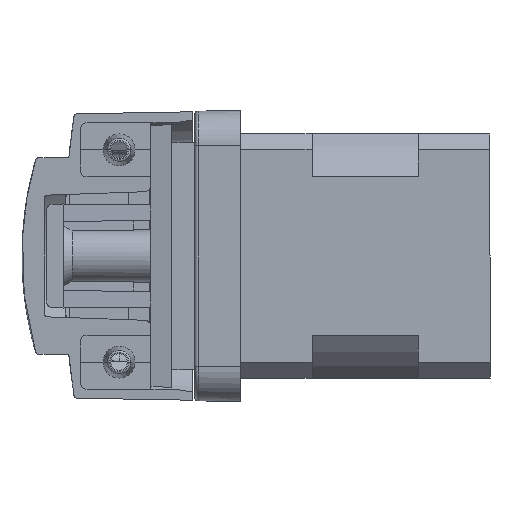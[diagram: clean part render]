
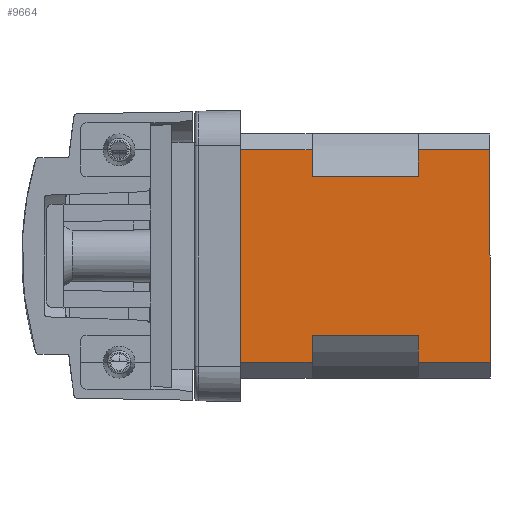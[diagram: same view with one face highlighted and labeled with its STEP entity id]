
A CAD part, front view. The second image highlights one B-rep face of the part: STEP entity #9664.
In plain terms, the highlighted planar face has unit normal (0, -1, 0).
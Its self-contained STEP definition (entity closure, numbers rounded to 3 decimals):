
#96 = DIRECTION ( 'NONE',  ( 0., -1., 0. ) ) ;
#278 = LINE ( 'NONE', #868, #12133 ) ;
#308 = VERTEX_POINT ( 'NONE', #10592 ) ;
#389 = ORIENTED_EDGE ( 'NONE', *, *, #18370, .T. ) ;
#781 = VECTOR ( 'NONE', #5382, 1000. ) ;
#811 = VERTEX_POINT ( 'NONE', #7950 ) ;
#868 = CARTESIAN_POINT ( 'NONE',  ( 14.135, -17.6, 15.35 ) ) ;
#918 = VERTEX_POINT ( 'NONE', #3685 ) ;
#1458 = CARTESIAN_POINT ( 'NONE',  ( 14.135, -17.6, -11.456 ) ) ;
#1466 = EDGE_LOOP ( 'NONE', ( #17467, #389, #8711, #2115, #11871, #8205, #7310, #17813, #8151, #10048, #18945, #8048 ) ) ;
#1549 = CARTESIAN_POINT ( 'NONE',  ( 14.135, -17.6, 15.35 ) ) ;
#1714 = LINE ( 'NONE', #1549, #13114 ) ;
#1861 = FACE_OUTER_BOUND ( 'NONE', #1466, .T. ) ;
#1864 = CARTESIAN_POINT ( 'NONE',  ( 29.465, -17.6, -15.35 ) ) ;
#1996 = LINE ( 'NONE', #2552, #9920 ) ;
#2115 = ORIENTED_EDGE ( 'NONE', *, *, #8960, .F. ) ;
#2234 = VERTEX_POINT ( 'NONE', #7176 ) ;
#2552 = CARTESIAN_POINT ( 'NONE',  ( 39.8, -17.6, -15.35 ) ) ;
#2661 = VECTOR ( 'NONE', #13766, 1000. ) ;
#2993 = DIRECTION ( 'NONE',  ( -1., 0., 0. ) ) ;
#3255 = EDGE_CURVE ( 'NONE', #14417, #6552, #1714, .T. ) ;
#3418 = DIRECTION ( 'NONE',  ( 1., 0., 0. ) ) ;
#3552 = LINE ( 'NONE', #8005, #14929 ) ;
#3685 = CARTESIAN_POINT ( 'NONE',  ( 39.8, -17.6, -15.35 ) ) ;
#3758 = LINE ( 'NONE', #10436, #11231 ) ;
#3826 = CARTESIAN_POINT ( 'NONE',  ( 29.465, -17.6, -11.456 ) ) ;
#3890 = CARTESIAN_POINT ( 'NONE',  ( 39.8, -17.6, 15.35 ) ) ;
#3916 = CARTESIAN_POINT ( 'NONE',  ( 29.465, -17.6, 15.35 ) ) ;
#4031 = VERTEX_POINT ( 'NONE', #3826 ) ;
#4048 = CARTESIAN_POINT ( 'NONE',  ( 3.8, -17.6, 15.35 ) ) ;
#4161 = EDGE_CURVE ( 'NONE', #4031, #12864, #3552, .T. ) ;
#4208 = VERTEX_POINT ( 'NONE', #18724 ) ;
#4313 = LINE ( 'NONE', #11281, #11780 ) ;
#4524 = DIRECTION ( 'NONE',  ( 0., 0., -1. ) ) ;
#4730 = VERTEX_POINT ( 'NONE', #10192 ) ;
#5382 = DIRECTION ( 'NONE',  ( -1., 0., 0. ) ) ;
#5510 = VERTEX_POINT ( 'NONE', #4048 ) ;
#5725 = LINE ( 'NONE', #12310, #13650 ) ;
#5726 = EDGE_CURVE ( 'NONE', #811, #5510, #8638, .T. ) ;
#6490 = DIRECTION ( 'NONE',  ( 0., 0., -1. ) ) ;
#6535 = VECTOR ( 'NONE', #13016, 1000. ) ;
#6552 = VERTEX_POINT ( 'NONE', #18870 ) ;
#6623 = LINE ( 'NONE', #13699, #2661 ) ;
#7030 = CARTESIAN_POINT ( 'NONE',  ( 29.465, -17.6, 11.456 ) ) ;
#7176 = CARTESIAN_POINT ( 'NONE',  ( 39.8, -17.6, 15.35 ) ) ;
#7269 = AXIS2_PLACEMENT_3D ( 'NONE', #8984, #96, #10474 ) ;
#7310 = ORIENTED_EDGE ( 'NONE', *, *, #14234, .F. ) ;
#7950 = CARTESIAN_POINT ( 'NONE',  ( 14.135, -17.6, 15.35 ) ) ;
#8005 = CARTESIAN_POINT ( 'NONE',  ( 29.465, -17.6, 15.35 ) ) ;
#8048 = ORIENTED_EDGE ( 'NONE', *, *, #15045, .T. ) ;
#8151 = ORIENTED_EDGE ( 'NONE', *, *, #13365, .T. ) ;
#8205 = ORIENTED_EDGE ( 'NONE', *, *, #14667, .F. ) ;
#8410 = EDGE_CURVE ( 'NONE', #2234, #14202, #16992, .T. ) ;
#8638 = LINE ( 'NONE', #14895, #16065 ) ;
#8711 = ORIENTED_EDGE ( 'NONE', *, *, #18721, .T. ) ;
#8872 = LINE ( 'NONE', #11114, #12839 ) ;
#8960 = EDGE_CURVE ( 'NONE', #811, #4730, #278, .T. ) ;
#8984 = CARTESIAN_POINT ( 'NONE',  ( 39.8, -17.6, 15.35 ) ) ;
#9664 = ADVANCED_FACE ( 'NONE', ( #1861 ), #14883, .T. ) ;
#9754 = DIRECTION ( 'NONE',  ( 0., 0., -1. ) ) ;
#9920 = VECTOR ( 'NONE', #12960, 1000. ) ;
#10048 = ORIENTED_EDGE ( 'NONE', *, *, #4161, .T. ) ;
#10192 = CARTESIAN_POINT ( 'NONE',  ( 14.135, -17.6, 11.456 ) ) ;
#10436 = CARTESIAN_POINT ( 'NONE',  ( 29.465, -17.6, 15.35 ) ) ;
#10474 = DIRECTION ( 'NONE',  ( -1., 0., 0. ) ) ;
#10592 = CARTESIAN_POINT ( 'NONE',  ( 29.465, -17.6, 11.456 ) ) ;
#11114 = CARTESIAN_POINT ( 'NONE',  ( 39.8, -17.6, -15.35 ) ) ;
#11231 = VECTOR ( 'NONE', #4524, 1000. ) ;
#11281 = CARTESIAN_POINT ( 'NONE',  ( 3.8, -17.6, 15.35 ) ) ;
#11780 = VECTOR ( 'NONE', #12756, 1000. ) ;
#11871 = ORIENTED_EDGE ( 'NONE', *, *, #5726, .T. ) ;
#12133 = VECTOR ( 'NONE', #9754, 1000. ) ;
#12310 = CARTESIAN_POINT ( 'NONE',  ( 29.465, -17.6, -11.456 ) ) ;
#12590 = DIRECTION ( 'NONE',  ( -1., 0., 0. ) ) ;
#12756 = DIRECTION ( 'NONE',  ( 0., 0., 1. ) ) ;
#12839 = VECTOR ( 'NONE', #12590, 1000. ) ;
#12864 = VERTEX_POINT ( 'NONE', #1864 ) ;
#12960 = DIRECTION ( 'NONE',  ( -1., 0., 0. ) ) ;
#13016 = DIRECTION ( 'NONE',  ( -1., 0., 0. ) ) ;
#13114 = VECTOR ( 'NONE', #13360, 1000. ) ;
#13360 = DIRECTION ( 'NONE',  ( 0., 0., -1. ) ) ;
#13365 = EDGE_CURVE ( 'NONE', #14417, #4031, #5725, .T. ) ;
#13650 = VECTOR ( 'NONE', #3418, 1000. ) ;
#13699 = CARTESIAN_POINT ( 'NONE',  ( 39.8, -17.6, 15.35 ) ) ;
#13766 = DIRECTION ( 'NONE',  ( 0., 0., 1. ) ) ;
#14202 = VERTEX_POINT ( 'NONE', #3916 ) ;
#14234 = EDGE_CURVE ( 'NONE', #6552, #4208, #1996, .T. ) ;
#14417 = VERTEX_POINT ( 'NONE', #1458 ) ;
#14667 = EDGE_CURVE ( 'NONE', #4208, #5510, #4313, .T. ) ;
#14883 = PLANE ( 'NONE',  #7269 ) ;
#14895 = CARTESIAN_POINT ( 'NONE',  ( 39.8, -17.6, 15.35 ) ) ;
#14929 = VECTOR ( 'NONE', #6490, 1000. ) ;
#15045 = EDGE_CURVE ( 'NONE', #918, #2234, #6623, .T. ) ;
#16065 = VECTOR ( 'NONE', #2993, 1000. ) ;
#16992 = LINE ( 'NONE', #3890, #781 ) ;
#17467 = ORIENTED_EDGE ( 'NONE', *, *, #8410, .T. ) ;
#17813 = ORIENTED_EDGE ( 'NONE', *, *, #3255, .F. ) ;
#17887 = LINE ( 'NONE', #7030, #6535 ) ;
#18370 = EDGE_CURVE ( 'NONE', #14202, #308, #3758, .T. ) ;
#18517 = EDGE_CURVE ( 'NONE', #918, #12864, #8872, .T. ) ;
#18721 = EDGE_CURVE ( 'NONE', #308, #4730, #17887, .T. ) ;
#18724 = CARTESIAN_POINT ( 'NONE',  ( 3.8, -17.6, -15.35 ) ) ;
#18870 = CARTESIAN_POINT ( 'NONE',  ( 14.135, -17.6, -15.35 ) ) ;
#18945 = ORIENTED_EDGE ( 'NONE', *, *, #18517, .F. ) ;
